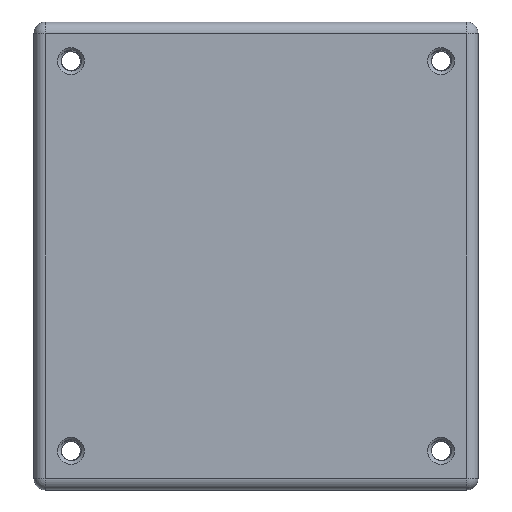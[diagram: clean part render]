
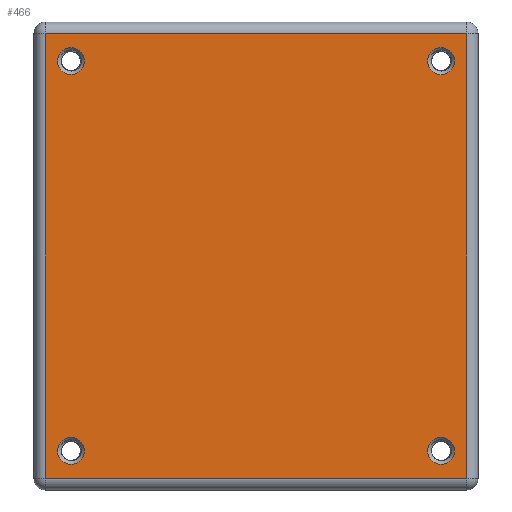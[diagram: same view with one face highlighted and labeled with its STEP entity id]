
A CAD part, front view. The second image highlights one B-rep face of the part: STEP entity #466.
In plain terms, the highlighted planar face has unit normal (0, -1, 0).
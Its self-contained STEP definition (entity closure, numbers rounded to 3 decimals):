
#292 = ORIENTED_EDGE ( 'NONE', *, *, #7041, .T. ) ;
#445 = CARTESIAN_POINT ( 'NONE',  ( 24.125, -12.7, -23.65 ) ) ;
#466 = ADVANCED_FACE ( 'NONE', ( #5688, #9468, #11374, #2913, #1980 ), #5809, .F. ) ;
#882 = DIRECTION ( 'NONE',  ( 0., 0., 1. ) ) ;
#998 = ORIENTED_EDGE ( 'NONE', *, *, #6894, .T. ) ;
#1121 = CIRCLE ( 'NONE', #2689, 1.75 ) ;
#1122 = DIRECTION ( 'NONE',  ( 0., 1., 0. ) ) ;
#1224 = CIRCLE ( 'NONE', #11674, 1.75 ) ;
#1230 = EDGE_CURVE ( 'NONE', #2993, #2993, #2676, .T. ) ;
#1368 = ORIENTED_EDGE ( 'NONE', *, *, #9081, .T. ) ;
#1476 = VERTEX_POINT ( 'NONE', #4264 ) ;
#1980 = FACE_OUTER_BOUND ( 'NONE', #11083, .T. ) ;
#2072 = AXIS2_PLACEMENT_3D ( 'NONE', #5748, #1122, #4125 ) ;
#2676 = CIRCLE ( 'NONE', #11738, 1.75 ) ;
#2689 = AXIS2_PLACEMENT_3D ( 'NONE', #4127, #7909, #9831 ) ;
#2761 = CARTESIAN_POINT ( 'NONE',  ( -24.125, -12.7, 25.4 ) ) ;
#2913 = FACE_BOUND ( 'NONE', #7701, .T. ) ;
#2971 = CARTESIAN_POINT ( 'NONE',  ( -27.45, -12.7, -29. ) ) ;
#2993 = VERTEX_POINT ( 'NONE', #6764 ) ;
#3060 = VERTEX_POINT ( 'NONE', #11878 ) ;
#3091 = VECTOR ( 'NONE', #11435, 1000. ) ;
#3114 = VERTEX_POINT ( 'NONE', #10770 ) ;
#3288 = CARTESIAN_POINT ( 'NONE',  ( 28.95, -12.7, -29. ) ) ;
#3667 = ORIENTED_EDGE ( 'NONE', *, *, #1230, .T. ) ;
#4033 = ORIENTED_EDGE ( 'NONE', *, *, #5059, .T. ) ;
#4125 = DIRECTION ( 'NONE',  ( 0., 0., 1. ) ) ;
#4127 = CARTESIAN_POINT ( 'NONE',  ( 24.125, -12.7, 25.4 ) ) ;
#4264 = CARTESIAN_POINT ( 'NONE',  ( 27.45, -12.7, -29. ) ) ;
#4573 = CARTESIAN_POINT ( 'NONE',  ( 27.45, -12.7, 30.5 ) ) ;
#4663 = CARTESIAN_POINT ( 'NONE',  ( 24.125, -12.7, -25.4 ) ) ;
#4774 = VECTOR ( 'NONE', #5227, 1000. ) ;
#5059 = EDGE_CURVE ( 'NONE', #1476, #3060, #12178, .T. ) ;
#5227 = DIRECTION ( 'NONE',  ( 0., 0., -1. ) ) ;
#5362 = VERTEX_POINT ( 'NONE', #2971 ) ;
#5499 = DIRECTION ( 'NONE',  ( 0., 1., 0. ) ) ;
#5688 = FACE_BOUND ( 'NONE', #11182, .T. ) ;
#5748 = CARTESIAN_POINT ( 'NONE',  ( -28.95, -12.7, 30.5 ) ) ;
#5809 = PLANE ( 'NONE',  #2072 ) ;
#5943 = EDGE_LOOP ( 'NONE', ( #1368 ) ) ;
#6217 = VECTOR ( 'NONE', #8965, 1000. ) ;
#6764 = CARTESIAN_POINT ( 'NONE',  ( -24.125, -12.7, 27.15 ) ) ;
#6894 = EDGE_CURVE ( 'NONE', #5362, #1476, #7987, .T. ) ;
#6972 = CARTESIAN_POINT ( 'NONE',  ( -27.45, -12.7, -30.5 ) ) ;
#7041 = EDGE_CURVE ( 'NONE', #7811, #7811, #8785, .T. ) ;
#7268 = DIRECTION ( 'NONE',  ( 0., 1., 0. ) ) ;
#7422 = EDGE_CURVE ( 'NONE', #3060, #12227, #9860, .T. ) ;
#7512 = DIRECTION ( 'NONE',  ( 0., 1., 0. ) ) ;
#7536 = ORIENTED_EDGE ( 'NONE', *, *, #11789, .T. ) ;
#7701 = EDGE_LOOP ( 'NONE', ( #3667 ) ) ;
#7811 = VERTEX_POINT ( 'NONE', #11628 ) ;
#7909 = DIRECTION ( 'NONE',  ( 0., 1., 0. ) ) ;
#7944 = CARTESIAN_POINT ( 'NONE',  ( -28.95, -12.7, 29. ) ) ;
#7987 = LINE ( 'NONE', #3288, #6217 ) ;
#8130 = ORIENTED_EDGE ( 'NONE', *, *, #7422, .T. ) ;
#8624 = CARTESIAN_POINT ( 'NONE',  ( -27.45, -12.7, 29. ) ) ;
#8785 = CIRCLE ( 'NONE', #10381, 1.75 ) ;
#8913 = VERTEX_POINT ( 'NONE', #445 ) ;
#8925 = DIRECTION ( 'NONE',  ( -1., 0., 0. ) ) ;
#8946 = LINE ( 'NONE', #6972, #4774 ) ;
#8965 = DIRECTION ( 'NONE',  ( 1., 0., 0. ) ) ;
#9081 = EDGE_CURVE ( 'NONE', #3114, #3114, #1121, .T. ) ;
#9142 = ORIENTED_EDGE ( 'NONE', *, *, #11567, .T. ) ;
#9344 = CARTESIAN_POINT ( 'NONE',  ( -24.125, -12.7, -25.4 ) ) ;
#9468 = FACE_BOUND ( 'NONE', #12128, .T. ) ;
#9831 = DIRECTION ( 'NONE',  ( 0., 0., 1. ) ) ;
#9860 = LINE ( 'NONE', #7944, #11740 ) ;
#10115 = DIRECTION ( 'NONE',  ( 0., 0., 1. ) ) ;
#10295 = DIRECTION ( 'NONE',  ( 0., 0., 1. ) ) ;
#10381 = AXIS2_PLACEMENT_3D ( 'NONE', #9344, #5499, #882 ) ;
#10770 = CARTESIAN_POINT ( 'NONE',  ( 24.125, -12.7, 27.15 ) ) ;
#11083 = EDGE_LOOP ( 'NONE', ( #9142, #998, #4033, #8130 ) ) ;
#11182 = EDGE_LOOP ( 'NONE', ( #292 ) ) ;
#11374 = FACE_BOUND ( 'NONE', #5943, .T. ) ;
#11435 = DIRECTION ( 'NONE',  ( 0., 0., 1. ) ) ;
#11567 = EDGE_CURVE ( 'NONE', #12227, #5362, #8946, .T. ) ;
#11628 = CARTESIAN_POINT ( 'NONE',  ( -24.125, -12.7, -23.65 ) ) ;
#11674 = AXIS2_PLACEMENT_3D ( 'NONE', #4663, #7512, #10295 ) ;
#11738 = AXIS2_PLACEMENT_3D ( 'NONE', #2761, #7268, #10115 ) ;
#11740 = VECTOR ( 'NONE', #8925, 1000. ) ;
#11789 = EDGE_CURVE ( 'NONE', #8913, #8913, #1224, .T. ) ;
#11878 = CARTESIAN_POINT ( 'NONE',  ( 27.45, -12.7, 29. ) ) ;
#12128 = EDGE_LOOP ( 'NONE', ( #7536 ) ) ;
#12178 = LINE ( 'NONE', #4573, #3091 ) ;
#12227 = VERTEX_POINT ( 'NONE', #8624 ) ;
